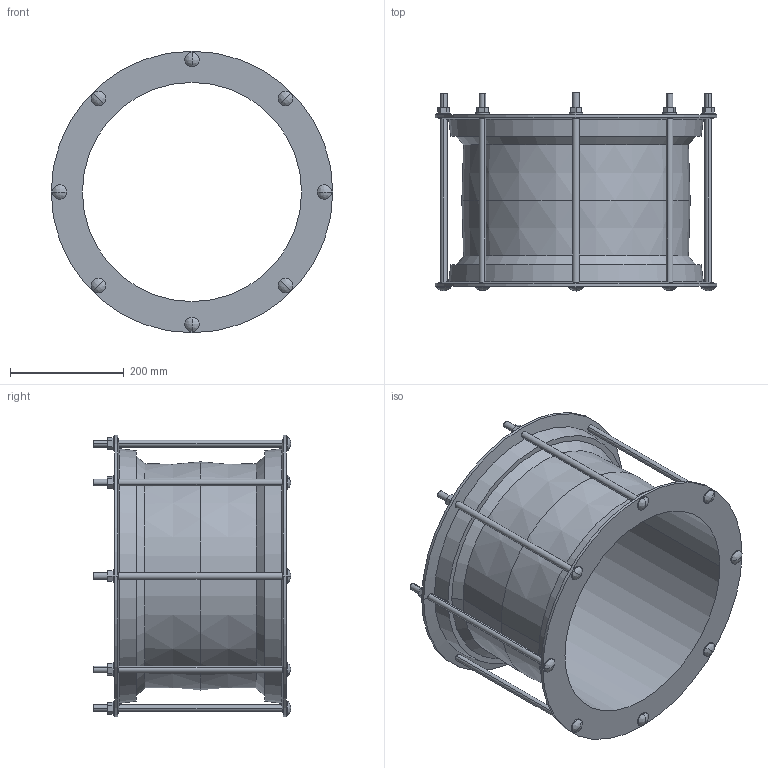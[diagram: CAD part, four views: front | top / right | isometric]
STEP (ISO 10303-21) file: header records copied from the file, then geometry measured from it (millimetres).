
FILE_DESCRIPTION((''),'2;1');
FILE_NAME('MAXIFIT_367_384','2018-12-18T',('mfairey'),('Glynwed Pipe Systems'),'CREO PARAMETRIC BY PTC INC, 2016130','CREO PARAMETRIC BY PTC INC, 2016130','');
FILE_SCHEMA(('CONFIG_CONTROL_DESIGN'));
Length unit declared in the file: millimetre
Products named in the file (1): MAXIFIT_367_384
Bounding box: 496 x 348 x 496 mm (x, y, z)
Volume: 5778395.4 mm3; surface area: 1114425.5 mm2
Topology: 1 solids, 1 shells, 178 faces, 432 edges, 270 vertices
Faces by surface type: plane 76, cylinder 70, cone 16, bspline 16
Entity records: 6298 total; most frequent: CARTESIAN_POINT 2146, DIRECTION 842, ORIENTED_EDGE 832, EDGE_CURVE 416, AXIS2_PLACEMENT_3D 304, VERTEX_POINT 270, VECTOR 234, LINE 234
